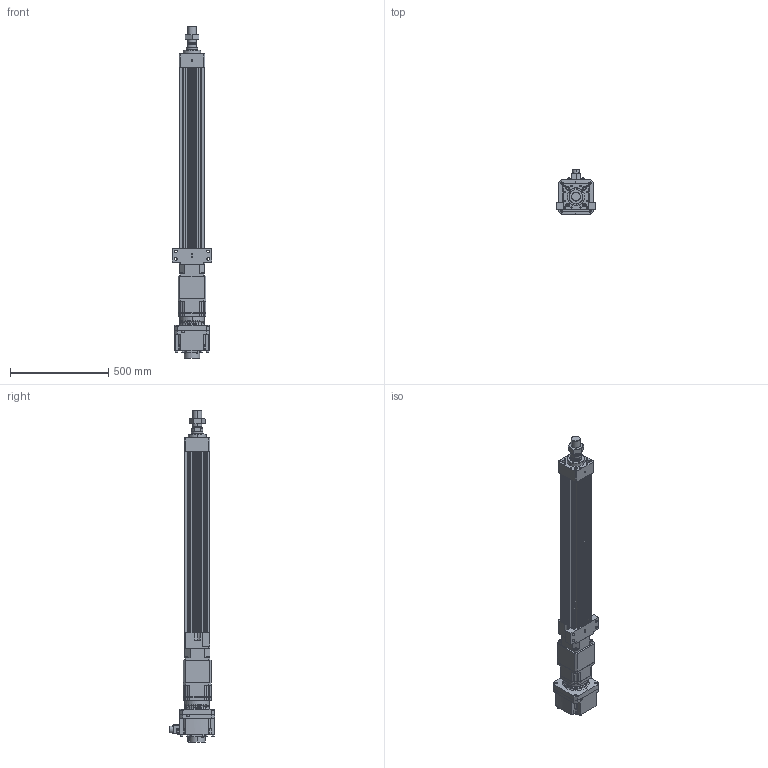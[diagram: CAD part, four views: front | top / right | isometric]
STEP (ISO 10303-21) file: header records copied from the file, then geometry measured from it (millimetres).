
FILE_DESCRIPTION (( 'STEP AP203' ), '1' );
FILE_NAME ('HES130FS(HS)-S700-W020G00-M-FFC.STEP', '2023-01-31T03:30:11', ( 'tms' ), ( '' ), 'SwSTEP 2.0', 'SolidWorks 2013', '' );
FILE_SCHEMA (( 'CONFIG_CONTROL_DESIGN' ));
Length unit declared in the file: millimetre
Products named in the file (9): P1301500001; HG-SR202; HES130FS(HS)-S700-W020G00-M-FFC; HES130 ROD M ST700; AB142-003[HG-SR352]; HES130-S700-G142-FFC; M45X1.5P; AB1421; P0403500801
Assembly tree (8 placements, depth 3):
  HES130FS(HS)-S700-W020G00-M-FFC
    HES130-S700-G142-FFC
    HES130 ROD M ST700
    M45X1.5P
    AB142-003[HG-SR352]
      AB1421
      P1301500001
      P0403500801
    HG-SR202
Bounding box: 200 x 228.85 x 1687.5 mm (x, y, z)
Volume: 14711270.1 mm3; surface area: 1945940.4 mm2
Topology: 4 solids, 22 shells, 1546 faces, 3982 edges, 2565 vertices
Faces by surface type: cylinder 694, plane 586, cone 184, bspline 76, torus 6
Entity records: 55838 total; most frequent: CARTESIAN_POINT 16862, DIRECTION 8160, ORIENTED_EDGE 7822, EDGE_CURVE 3933, AXIS2_PLACEMENT_3D 3080, VERTEX_POINT 2565, LINE 2000, VECTOR 2000
